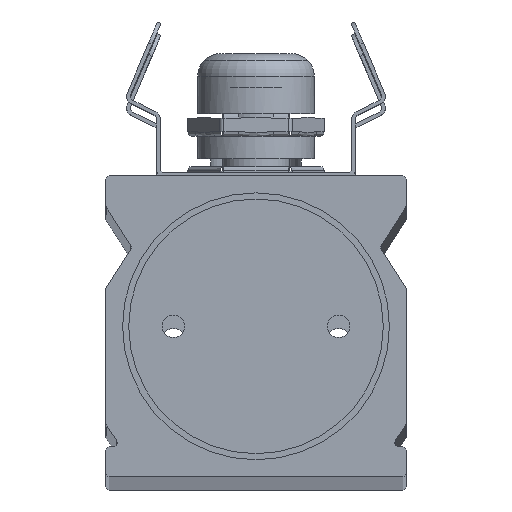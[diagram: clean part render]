
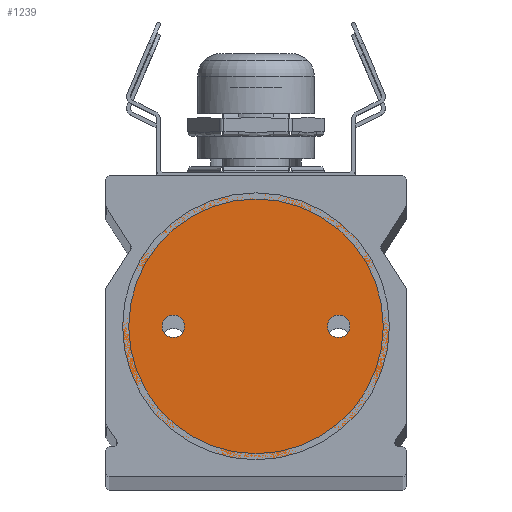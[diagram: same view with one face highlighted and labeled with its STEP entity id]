
A CAD part, top view. The second image highlights one B-rep face of the part: STEP entity #1239.
In plain terms, the highlighted planar face has unit normal (0, 0, 1).
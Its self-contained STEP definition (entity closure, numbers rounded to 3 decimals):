
#1174=CARTESIAN_POINT('',(0.,20.,1018.));
#1175=DIRECTION('',(0.,0.,-1.));
#1176=DIRECTION('',(-1.,0.,0.));
#1177=AXIS2_PLACEMENT_3D('',#1174,#1175,#1176);
#1179=CARTESIAN_POINT('',(0.,20.,1018.));
#1180=DIRECTION('',(0.,0.,-1.));
#1181=DIRECTION('',(1.,0.,0.));
#1182=AXIS2_PLACEMENT_3D('',#1179,#1180,#1181);
#1184=CARTESIAN_POINT('',(11.,20.,1018.));
#1185=DIRECTION('',(0.,0.,1.));
#1186=DIRECTION('',(-1.,0.,0.));
#1187=AXIS2_PLACEMENT_3D('',#1184,#1185,#1186);
#1189=CARTESIAN_POINT('',(11.,20.,1018.));
#1190=DIRECTION('',(0.,0.,1.));
#1191=DIRECTION('',(1.,0.,0.));
#1192=AXIS2_PLACEMENT_3D('',#1189,#1190,#1191);
#1194=CARTESIAN_POINT('',(-11.,20.,1018.));
#1195=DIRECTION('',(0.,0.,1.));
#1196=DIRECTION('',(-1.,0.,0.));
#1197=AXIS2_PLACEMENT_3D('',#1194,#1195,#1196);
#1199=CARTESIAN_POINT('',(-11.,20.,1018.));
#1200=DIRECTION('',(0.,0.,1.));
#1201=DIRECTION('',(1.,0.,0.));
#1202=AXIS2_PLACEMENT_3D('',#1199,#1200,#1201);
#1204=CARTESIAN_POINT('',(-17.75,20.,1018.));
#1205=CARTESIAN_POINT('',(17.75,20.,1018.));
#1206=VERTEX_POINT('',#1204);
#1207=VERTEX_POINT('',#1205);
#1208=CARTESIAN_POINT('',(9.5,20.,1018.));
#1209=CARTESIAN_POINT('',(12.5,20.,1018.));
#1210=VERTEX_POINT('',#1208);
#1211=VERTEX_POINT('',#1209);
#1212=CARTESIAN_POINT('',(-12.5,20.,1018.));
#1213=CARTESIAN_POINT('',(-9.5,20.,1018.));
#1214=VERTEX_POINT('',#1212);
#1215=VERTEX_POINT('',#1213);
#1216=CARTESIAN_POINT('',(0.,20.,1018.));
#1217=DIRECTION('',(0.,0.,-1.));
#1218=DIRECTION('',(-1.,0.,0.));
#1219=AXIS2_PLACEMENT_3D('',#1216,#1217,#1218);
#1220=PLANE('',#1219);
#1222=ORIENTED_EDGE('',*,*,#1221,.T.);
#1224=ORIENTED_EDGE('',*,*,#1223,.T.);
#1225=EDGE_LOOP('',(#1222,#1224));
#1226=FACE_OUTER_BOUND('',#1225,.F.);
#1228=ORIENTED_EDGE('',*,*,#1227,.T.);
#1230=ORIENTED_EDGE('',*,*,#1229,.T.);
#1231=EDGE_LOOP('',(#1228,#1230));
#1232=FACE_BOUND('',#1231,.F.);
#1234=ORIENTED_EDGE('',*,*,#1233,.T.);
#1236=ORIENTED_EDGE('',*,*,#1235,.T.);
#1237=EDGE_LOOP('',(#1234,#1236));
#1238=FACE_BOUND('',#1237,.F.);
#1239=ADVANCED_FACE('',(#1226,#1232,#1238),#1220,.F.);
#1178=CIRCLE('',#1177,17.75);
#1183=CIRCLE('',#1182,17.75);
#1188=CIRCLE('',#1187,1.5);
#1193=CIRCLE('',#1192,1.5);
#1198=CIRCLE('',#1197,1.5);
#1203=CIRCLE('',#1202,1.5);
#1221=EDGE_CURVE('',#1206,#1207,#1178,.T.);
#1223=EDGE_CURVE('',#1207,#1206,#1183,.T.);
#1227=EDGE_CURVE('',#1210,#1211,#1188,.T.);
#1229=EDGE_CURVE('',#1211,#1210,#1193,.T.);
#1233=EDGE_CURVE('',#1214,#1215,#1198,.T.);
#1235=EDGE_CURVE('',#1215,#1214,#1203,.T.);
